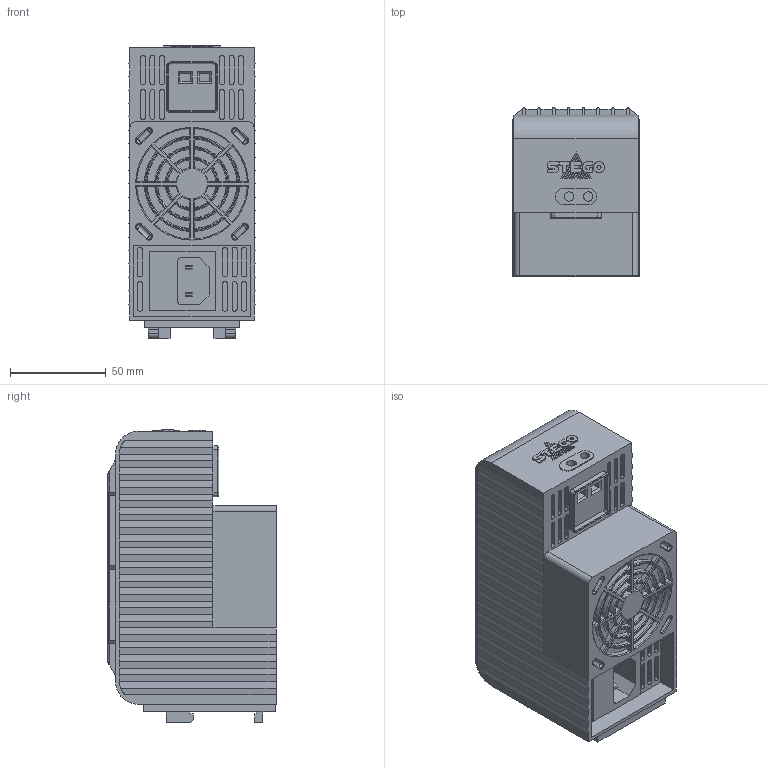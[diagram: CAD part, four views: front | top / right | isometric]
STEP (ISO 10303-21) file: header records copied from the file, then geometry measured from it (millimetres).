
FILE_DESCRIPTION (( 'STEP AP214' ), '1' );
FILE_NAME ('CS03209.0-06_eplan_08_2013.STEP', '2013-08-27T09:00:43', ( 'Nutzer' ), ( '' ), 'SwSTEP 2.0', 'SolidWorks 2013', '' );
FILE_SCHEMA (( 'AUTOMOTIVE_DESIGN' ));
Length unit declared in the file: millimetre
Products named in the file (1): CS03209.0-06_eplan_08_2013
Bounding box: 66 x 87.99 x 153.35 mm (x, y, z)
Volume: 676787.5 mm3; surface area: 75854.2 mm2
Topology: 1 solids, 1 shells, 1273 faces, 3270 edges, 2066 vertices
Faces by surface type: plane 909, cylinder 251, torus 84, bspline 21, sphere 8
Entity records: 38527 total; most frequent: CARTESIAN_POINT 7838, ORIENTED_EDGE 6508, DIRECTION 6043, EDGE_CURVE 3254, LINE 2573, VECTOR 2573, VERTEX_POINT 2058, AXIS2_PLACEMENT_3D 1735
